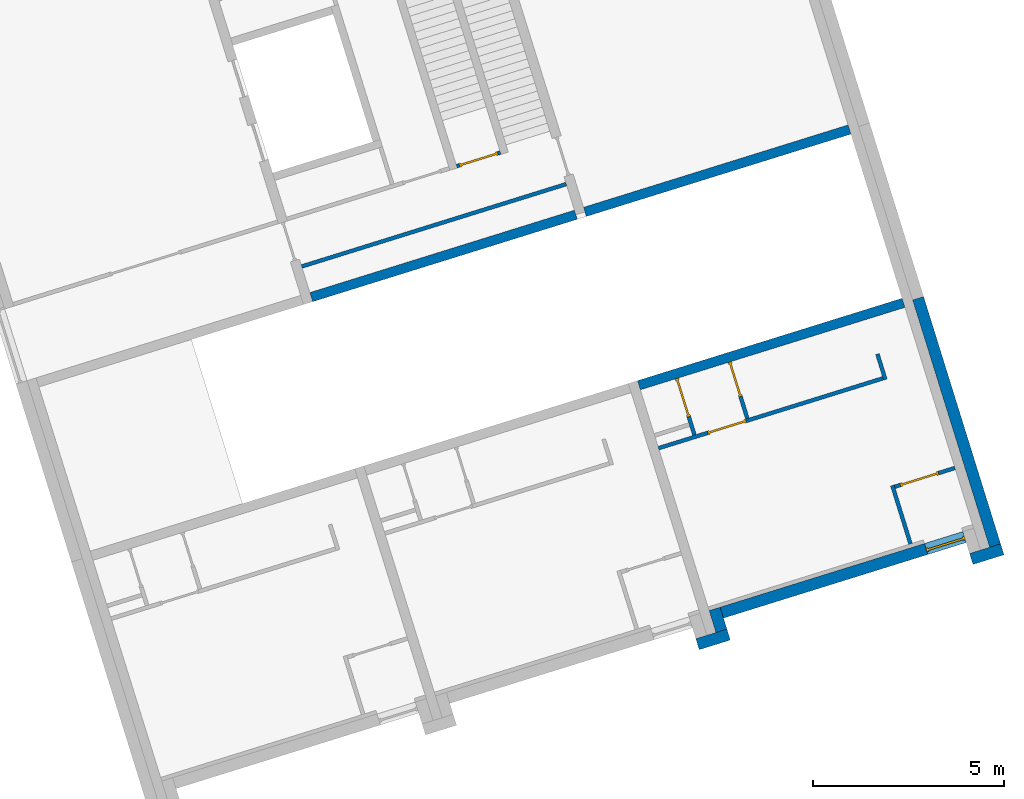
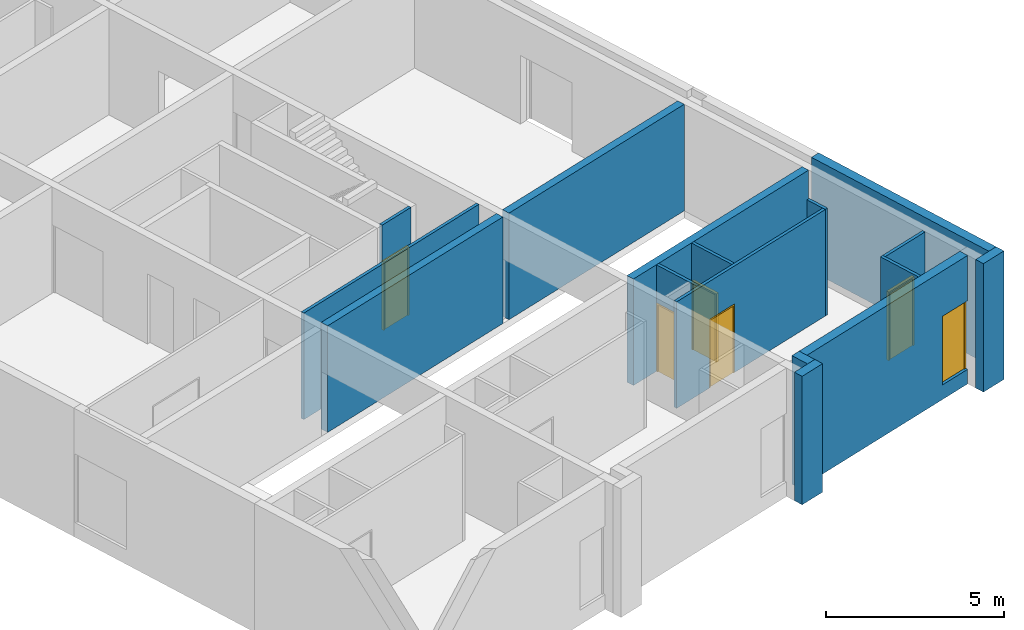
# One storey, part 3 of 10: 16 walls, 6 doors, 8 openings.
"""IFC4 building model written with IfcOpenShell, lengths in metres."""

from ifc_helpers import new_model, entity, si_unit, converted_unit, direction, frame, origin, place, context, subcontext, project, spatial, indexed_curve, outline, extrude, polygons, source, transform, mapped, material, constituent, constituent_set, type_object, type_shapes, element, fill, save


model = new_model("IFC4")

# Units and contexts
model_context = context("Model", 3, precision=1e-05, world=origin(), true_north=direction((6.12323399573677e-17, 1.0)))
body_context = subcontext(model_context, "Body", "Model", "MODEL_VIEW")
ifc_project = project(units=[si_unit("LENGTHUNIT", "METRE"), si_unit("AREAUNIT", "SQUARE_METRE"), si_unit("VOLUMEUNIT", "CUBIC_METRE"), converted_unit("PLANEANGLEUNIT", "DEGREE", entity("IfcPlaneAngleMeasure", 0.0174532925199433), si_unit("PLANEANGLEUNIT", "RADIAN"), dimensions=[0, 0, 0, 0, 0, 0, 0])], contexts=[model_context])

# Site, building, storey
site_placement = place(None, frame((13.1347999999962, 11.9886000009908, 0.0), z_axis=(0.0, 0.0, 1.0), x_axis=(0.954770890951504, 0.297342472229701, 0.0)))
site = spatial("IfcSite", under=ifc_project, at=site_placement, Name="Schiehaven", CompositionType="ELEMENT")
building_placement = place(site_placement, origin())
building = spatial("IfcBuilding", under=site, at=building_placement, Name="VORM huis", CompositionType="ELEMENT")
storey_placement = place(building_placement, origin())
storey = spatial("IfcBuildingStorey", under=building, at=storey_placement, Name="00 begane grond", CompositionType="ELEMENT", Elevation=0.0)

# Walls
ifc_material_1 = material(Name="beton_gewapend_ihw", Category="Miscellaneous")
wall_type_1 = type_object("IfcWallType", Name="Basic Wall:28_WA_skelet_wand 250mm_gen", PredefinedType="STANDARD")
wall_1_placement = place(storey_placement, frame((19.875, 11.9, 0.0), z_axis=(0.0, 0.0, 1.0), x_axis=(-1.0, 0.0, 0.0)))
element("IfcWall", 1, at=wall_1_placement, inside=storey, type_object=wall_type_1, material=ifc_material_1, Name="Constructieve wand", ObjectType="Wand", PredefinedType="NOTDEFINED", context=body_context, shape_type="SweptSolid", body=[
    extrude(outline(indexed_curve([(7.24999999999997, 0.125), (-8.26393618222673e-17, 0.125), (8.26393618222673e-17, -0.125), (7.24999999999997, -0.124999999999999), (7.24999999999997, 0.125)], self_intersect=False)), origin(), (0.0, 0.0, 1.0), 3.65),
])
ifc_material_2 = material(Name="ntb_ntb_ntb", Category="Miscellaneous")
wall_type_2 = type_object("IfcWallType", Name="Basic Wall: 300mm_gen", PredefinedType="STANDARD")
wall_2_placement = place(storey_placement, frame((27.7750000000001, 7.15000000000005, 0.0), z_axis=(0.0, 0.0, 1.0), x_axis=(0.0, -1.0, 0.0)))
element("IfcWall", 2, at=wall_2_placement, inside=storey, type_object=wall_type_2, material=ifc_material_2, Name="Gevelwand", ObjectType="Wand", PredefinedType="NOTDEFINED", context=body_context, shape_type="SweptSolid", body=[
    extrude(outline(indexed_curve([(6.77500000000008, 0.15), (-2.81467268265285e-16, 0.150000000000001), (2.81467268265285e-16, -0.150000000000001), (6.77500000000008, -0.150000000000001), (6.77500000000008, 0.15)], self_intersect=False)), origin(), (0.0, 0.0, 1.0), 3.9),
])
wall_3_placement = place(storey_placement, frame((20.4250000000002, 0.224999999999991, -0.5), z_axis=(0.0, 0.0, 1.0), x_axis=(-1.0, 0.0, 0.0)))
element("IfcWall", 3, at=wall_3_placement, inside=storey, type_object=wall_type_2, material=ifc_material_2, Name="Gevelwand", ObjectType="Wand", PredefinedType="NOTDEFINED", context=body_context, shape_type="SweptSolid", body=[
    extrude(outline(indexed_curve([(0.850000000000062, 0.15), (-3.08086889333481e-16, 0.15), (3.08086889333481e-16, -0.15), (0.850000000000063, -0.15), (0.850000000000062, 0.15)], self_intersect=False)), origin(), (0.0, 0.0, 1.0), 4.4),
])
wall_4_placement = place(storey_placement, frame((20.2750000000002, 0.974999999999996, -0.5), z_axis=(0.0, 0.0, 1.0), x_axis=(0.0, -1.0, 0.0)))
element("IfcWall", 4, at=wall_4_placement, inside=storey, type_object=wall_type_2, material=ifc_material_2, Name="Gevelwand", ObjectType="Wand", PredefinedType="NOTDEFINED", context=body_context, shape_type="SweptSolid", body=[
    extrude(outline(indexed_curve([(0.600000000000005, 0.150000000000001), (0.0, 0.150000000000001), (0.0, -0.150000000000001), (0.600000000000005, -0.150000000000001), (0.600000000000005, 0.150000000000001)], self_intersect=False)), origin(), (0.0, 0.0, 1.0), 4.4),
])

# Wall, opening, door
wall_5_placement = place(storey_placement, frame((27.0750000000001, 0.824999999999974, -0.5), z_axis=(0.0, 0.0, 1.0), x_axis=(-1.0, 0.0, 0.0)))
wall_5 = element("IfcWall", 5, at=wall_5_placement, inside=storey, type_object=wall_type_2, material=ifc_material_2, Name="Gevelwand", ObjectType="Wand", PredefinedType="NOTDEFINED", context=body_context, shape_type="Tessellation", body=[
    polygons([(-1.23674201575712e-15, -0.15, 0.0), (6.64999999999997, -0.15, 0.0), (6.64999999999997, -0.15, 4.4), (-1.23674201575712e-15, -0.15, 4.4), (-1.23674201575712e-15, -0.15, 2.84999999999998), (1.05, -0.15, 2.84999999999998), (1.05, -0.15, 0.5), (-1.23674201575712e-15, -0.15, 0.5), (6.64999999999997, 0.15, 0.0), (-2.18896555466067e-15, 0.15, 0.0), (-2.18896555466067e-15, 0.15, 0.5), (1.05, 0.15, 0.5), (1.05, 0.15, 2.84999999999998), (-2.18896555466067e-15, 0.15, 2.84999999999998), (-2.18896555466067e-15, 0.15, 4.4), (6.64999999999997, 0.15, 4.4)], [[[1, 2, 3, 4, 5, 6, 7, 8]], [[9, 10, 11, 12, 13, 14, 15, 16]], [[2, 1, 10, 9]], [[4, 3, 16, 15]], [[10, 1, 8, 11]], [[3, 2, 9, 16]], [[6, 13, 12, 7]], [[7, 12, 11, 8]], [[13, 6, 5, 14]], [[4, 15, 14, 5]]], closed=True),
])
opening_1_placement = place(wall_5_placement, frame((0.0, -0.15, 0.5)))
opening_1 = element("IfcOpeningElement", 6, at=opening_1_placement, cuts=wall_5, Name="Woningtoegangsdeur", PredefinedType="OPENING", context=body_context, shape_type="SweptSolid", body=[
    extrude(outline(indexed_curve([(2.34999999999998, 1.05), (0.0, 1.05), (0.0, 0.0), (2.34999999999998, 0.0), (2.34999999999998, 1.05)], self_intersect=False)), frame((0.0, 0.0, 0.0), z_axis=(0.0, 1.0, 0.0), x_axis=(0.0, 0.0, 1.0)), (0.0, 0.0, 1.0), 0.3),
])
ifc_material_3 = material(Name="PD_a_buitenwandopeningen", Category="Miscellaneous")
ifc_constituent_1 = constituent(ifc_material_3, Name="PD_a_buitenwandopeningen", Category="Miscellaneous")
ifc_material_4 = material(Name="metaal_aluminium_ntb", Category="Miscellaneous")
ifc_constituent_2 = constituent(ifc_material_4, Name="metaal_aluminium_ntb", Category="Miscellaneous")
ifc_constituent_set_1 = constituent_set(constituents=[ifc_constituent_1, ifc_constituent_2])
door_type_1 = type_object("IfcDoorType", Name="31_DO_buitendeur enkel:woningtoegangsdeur", OperationType="REVOLVING", PredefinedType="DOOR")
shared_shape_1 = source(origin(), body_context, "Body", "SweptSolid", [
    extrude(outline(indexed_curve([(-1.16249999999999, -0.525000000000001), (1.18749999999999, -0.525), (1.18749999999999, 0.525000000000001), (-1.16249999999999, 0.525), (-1.16249999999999, 0.475), (1.13749999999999, 0.475), (1.13749999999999, -0.475), (-1.16249999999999, -0.475), (-1.16249999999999, -0.525000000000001)], self_intersect=False)), frame((0.525000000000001, 0.130000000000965, 1.16249999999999), z_axis=(0.0, 1.0, 0.0), x_axis=(0.0, 0.0, 1.0)), (0.0, 0.0, 1.0), 0.1),
    extrude(outline(indexed_curve([(-0.025, -0.475), (0.025, -0.475), (0.025, 0.475), (-0.025, 0.475), (-0.025, -0.475)], self_intersect=False)), frame((0.525000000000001, 0.180000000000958, 0.0), z_axis=(0.0, 0.0, 1.0), x_axis=(0.0, 1.0, 0.0)), (0.0, 0.0, 1.0), 2.29999999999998),
])
type_shapes(door_type_1, [shared_shape_1])
door_1_placement = place(opening_1_placement, origin())
door_1 = element("IfcDoor", 7, at=door_1_placement, inside=storey, type_object=door_type_1, material=ifc_constituent_set_1, Name="Woningtoegangsdeur", ObjectType="Deur", OperationType="REVOLVING", OverallHeight=2.34999999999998, OverallWidth=1.05, PredefinedType="DOOR", context=body_context, shape_type="MappedRepresentation", body=[
    mapped(shared_shape_1, transform((0.0, 0.0, 0.0), scale=1.0)),
])
fill(opening_1, door_1)

# Walls
wall_6_placement = place(storey_placement, frame((27.9250000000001, 0.224999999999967, -0.5), z_axis=(0.0, 0.0, 1.0), x_axis=(-1.0, 0.0, 0.0)))
element("IfcWall", 8, at=wall_6_placement, inside=storey, type_object=wall_type_2, material=ifc_material_2, Name="Gevelwand", ObjectType="Wand", PredefinedType="NOTDEFINED", context=body_context, shape_type="SweptSolid", body=[
    extrude(outline(indexed_curve([(0.849999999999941, 0.15), (-3.08086889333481e-16, 0.15), (3.08086889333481e-16, -0.15), (0.849999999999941, -0.15), (0.849999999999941, 0.15)], self_intersect=False)), origin(), (0.0, 0.0, 1.0), 4.4),
])
wall_type_3 = type_object("IfcWallType", Name="Basic Wall:22_WA_afbouw_binnenwand 250mm_gen", PredefinedType="STANDARD")
wall_7_placement = place(storey_placement, frame((20.125, 11.9, 0.0)))
element("IfcWall", 9, at=wall_7_placement, inside=storey, type_object=wall_type_3, material=ifc_material_2, Name="Binnenwand", ObjectType="Wand", PredefinedType="NOTDEFINED", context=body_context, shape_type="SweptSolid", body=[
    extrude(outline(indexed_curve([(7.24999999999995, 0.125), (-1.92055213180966e-16, 0.125), (1.92055213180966e-16, -0.125), (7.24999999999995, -0.124999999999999), (7.24999999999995, 0.125)], self_intersect=False)), origin(), (0.0, 0.0, 1.0), 3.65),
])
wall_8_placement = place(storey_placement, frame((20.125, 7.15000000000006, 0.0)))
element("IfcWall", 10, at=wall_8_placement, inside=storey, type_object=wall_type_3, material=ifc_material_2, Name="Binnenwand", ObjectType="Wand", PredefinedType="NOTDEFINED", context=body_context, shape_type="SweptSolid", body=[
    extrude(outline(indexed_curve([(7.24999999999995, 0.124999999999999), (-1.92055213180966e-16, 0.125), (1.92055213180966e-16, -0.125), (7.24999999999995, -0.125000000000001), (7.24999999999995, 0.124999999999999)], self_intersect=False)), origin(), (0.0, 0.0, 1.0), 3.65),
])

# Wall, openings, door
wall_type_4 = type_object("IfcWallType", Name="Basic Wall:22_WA_afbouw_binnenwand 100mm_gen", PredefinedType="STANDARD")
wall_9_placement = place(storey_placement, frame((18.4750000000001, 14.04, 0.0), z_axis=(0.0, 0.0, 1.0), x_axis=(-1.0, 0.0, 0.0)))
wall_9 = element("IfcWall", 11, at=wall_9_placement, inside=storey, type_object=wall_type_4, material=ifc_material_2, Name="Binnenwand", ObjectType="Wand", PredefinedType="NOTDEFINED", context=body_context, shape_type="Tessellation", body=[
    polygons([(1.25501523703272e-15, -0.0499999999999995, 0.0), (0.0750000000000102, -0.0499999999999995, 0.0), (0.0750000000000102, -0.0499999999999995, 2.34999999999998), (1.12500000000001, -0.0499999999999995, 2.34999999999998), (1.12500000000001, -0.0499999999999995, 0.0), (1.2, -0.0499999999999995, 0.0), (1.2, -0.0499999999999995, 3.65), (1.25501523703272e-15, -0.0499999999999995, 3.65), (0.0750000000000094, 0.0499999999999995, 2.34999999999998), (0.0750000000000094, 0.0499999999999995, 0.0), (4.77572169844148e-16, 0.0499999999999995, 0.0), (4.77572169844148e-16, 0.0499999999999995, 3.65), (1.2, 0.0499999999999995, 3.65), (1.2, 0.0499999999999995, 0.0), (1.12500000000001, 0.0499999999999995, 0.0), (1.12500000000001, 0.0499999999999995, 2.34999999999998)], [[[1, 2, 3, 4, 5, 6, 7, 8]], [[9, 10, 11, 12, 13, 14, 15, 16]], [[11, 10, 2, 1]], [[7, 6, 14, 13]], [[8, 7, 13, 12]], [[1, 8, 12, 11]], [[5, 4, 16, 15]], [[3, 2, 10, 9]], [[4, 3, 9, 16]], [[15, 14, 6, 5]]], closed=True),
])
opening_2_placement = place(wall_9_placement, frame((0.0750000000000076, -0.05, 0.0)))
opening_2 = element("IfcOpeningElement", 12, at=opening_2_placement, cuts=wall_9, Name="Vluchtdeur", PredefinedType="OPENING", context=body_context, shape_type="SweptSolid", body=[
    extrude(outline(indexed_curve([(2.34999999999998, 1.05), (0.0, 1.05), (0.0, 1.35358391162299e-15), (2.34999999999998, 1.35358391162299e-15), (2.34999999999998, 1.05)], self_intersect=False)), frame((0.0, 0.0, 0.0), z_axis=(0.0, 1.0, 0.0), x_axis=(0.0, 0.0, 1.0)), (0.0, 0.0, 1.0), 0.1),
])
opening_3_placement = place(wall_9_placement, frame((18.4750000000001, 14.04, 0.0), z_axis=(0.0, 0.0, 1.0), x_axis=(-1.0, 0.0, 0.0)))
element("IfcOpeningElement", 13, at=opening_3_placement, cuts=wall_9, Name="Vluchtdeur", PredefinedType="OPENING", context=body_context, shape_type="SweptSolid", body=[
    extrude(outline(indexed_curve([(-1.17499999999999, -0.525000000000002), (1.17499999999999, -0.525), (1.17499999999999, 0.525), (-1.17499999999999, 0.525), (-1.17499999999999, -0.525000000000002)], self_intersect=False)), frame((17.8750000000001, 15.614, 1.17499999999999), z_axis=(0.0, -1.0, 0.0), x_axis=(0.0, 0.0, -1.0)), (0.0, 0.0, 1.0), 3.048),
])
ifc_material_5 = material(Name="PD_a_binnenwandopeningen", Category="Miscellaneous")
ifc_constituent_3 = constituent(ifc_material_5, Name="PD_a_binnenwandopeningen", Category="Miscellaneous")
ifc_constituent_4 = constituent(ifc_material_4, Name="metaal_aluminium_ntb", Category="Miscellaneous")
ifc_constituent_set_2 = constituent_set(constituents=[ifc_constituent_3, ifc_constituent_4])
door_type_2 = type_object("IfcDoorType", Name="32_DO_binnendeur enkel:binnendeur zelfsluitend 30min", OperationType="NOTDEFINED", PredefinedType="DOOR")
shared_shape_2 = source(origin(), body_context, "Body", "SweptSolid", [
    extrude(outline(indexed_curve([(-1.16249999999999, -0.525000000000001), (1.18749999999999, -0.525), (1.18749999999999, 0.525), (-1.16249999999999, 0.525), (-1.16249999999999, 0.475), (1.13749999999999, 0.475), (1.13749999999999, -0.475), (-1.16249999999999, -0.475), (-1.16249999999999, -0.525000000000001)], self_intersect=False)), frame((0.525000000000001, 0.0, 1.16249999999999), z_axis=(0.0, 1.0, 0.0), x_axis=(0.0, 0.0, 1.0)), (0.0, 0.0, 1.0), 0.1),
    extrude(outline(indexed_curve([(-0.025, -0.475), (0.025, -0.475), (0.025, 0.475), (-0.025, 0.475), (-0.025, -0.475)], self_intersect=False)), frame((0.525000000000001, 0.0499999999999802, 0.0), z_axis=(0.0, 0.0, 1.0), x_axis=(0.0, 1.0, 0.0)), (0.0, 0.0, 1.0), 2.29999999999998),
])
type_shapes(door_type_2, [shared_shape_2])
door_2_placement = place(opening_2_placement, origin())
door_2 = element("IfcDoor", 14, at=door_2_placement, inside=storey, type_object=door_type_2, material=ifc_constituent_set_2, Name="Vluchtdeur", ObjectType="Deur", OperationType="NOTDEFINED", OverallHeight=2.34999999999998, OverallWidth=1.05, PredefinedType="DOOR", context=body_context, shape_type="MappedRepresentation", body=[
    mapped(shared_shape_2, transform((0.0, 0.0, 0.0), scale=1.0)),
])
fill(opening_2, door_2)

# Wall
wall_10_placement = place(storey_placement, frame((19.875, 12.74, 0.0), z_axis=(0.0, 0.0, 1.0), x_axis=(-1.0, 0.0, 0.0)))
element("IfcWall", 15, at=wall_10_placement, inside=storey, type_object=wall_type_4, material=ifc_material_2, Name="Binnenwand", ObjectType="Wand", PredefinedType="NOTDEFINED", context=body_context, shape_type="SweptSolid", body=[
    extrude(outline(indexed_curve([(7.24999999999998, 0.0499999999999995), (-3.88338556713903e-16, 0.0499999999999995), (3.88338556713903e-16, -0.0499999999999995), (7.24999999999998, -0.0499999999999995), (7.24999999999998, 0.0499999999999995)], self_intersect=False)), origin(), (0.0, 0.0, 1.0), 3.65),
])

# Wall, opening, door
wall_11_placement = place(storey_placement, frame((22.575, 5.47500000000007, 0.0), z_axis=(0.0, 0.0, 1.0), x_axis=(0.0, 1.0, 0.0)))
wall_11 = element("IfcWall", 16, at=wall_11_placement, inside=storey, type_object=wall_type_4, material=ifc_material_2, Name="Binnenwand", ObjectType="Wand", PredefinedType="NOTDEFINED", context=body_context, shape_type="Tessellation", body=[
    polygons([(1.55, -0.0499999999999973, 3.65), (0.0, -0.0499999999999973, 3.65), (0.0, -0.0499999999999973, 0.0), (0.599999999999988, -0.0499999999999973, 0.0), (0.599999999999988, -0.0499999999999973, 2.34999999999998), (1.55, -0.0499999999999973, 2.34999999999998), (0.0, 0.0500000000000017, 3.65), (1.55, 0.0500000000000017, 3.65), (1.55, 0.0500000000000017, 2.34999999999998), (0.599999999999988, 0.0500000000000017, 2.34999999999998), (0.599999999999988, 0.0500000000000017, 0.0), (0.0, 0.0500000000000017, 0.0), (0.0, 0.0500000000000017, 2.34999999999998)], [[[1, 2, 3, 4, 5, 6]], [[7, 8, 9, 10, 11, 12, 13]], [[3, 12, 11, 4]], [[8, 1, 6, 9]], [[2, 1, 8, 7]], [[10, 5, 4, 11]], [[5, 10, 9, 6]], [[3, 2, 7, 13, 12]]], closed=True),
])
opening_4_placement = place(wall_11_placement, frame((0.599999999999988, -0.050000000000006, 0.0)))
opening_4 = element("IfcOpeningElement", 17, at=opening_4_placement, cuts=wall_11, Name="Binnendeur", PredefinedType="OPENING", context=body_context, shape_type="SweptSolid", body=[
    extrude(outline(indexed_curve([(2.34999999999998, 0.950000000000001), (0.0, 0.950000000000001), (0.0, 2.70716782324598e-16), (2.34999999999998, 2.70716782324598e-16), (2.34999999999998, 0.950000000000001)], self_intersect=False)), frame((0.0, 0.0, 0.0), z_axis=(0.0, 1.0, 0.0), x_axis=(0.0, 0.0, 1.0)), (0.0, 0.0, 1.0), 0.1),
])
ifc_constituent_5 = constituent(ifc_material_5, Name="PD_a_binnenwandopeningen", Category="Miscellaneous")
ifc_constituent_6 = constituent(ifc_material_4, Name="metaal_aluminium_ntb", Category="Miscellaneous")
ifc_constituent_set_3 = constituent_set(constituents=[ifc_constituent_5, ifc_constituent_6])
door_type_3 = type_object("IfcDoorType", Name="32_DO_binnendeur enkel:kastdeur", OperationType="REVOLVING", PredefinedType="DOOR")
shared_shape_3 = source(origin(), body_context, "Body", "SweptSolid", [
    extrude(outline(indexed_curve([(-1.16249999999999, -0.475000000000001), (1.18749999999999, -0.475000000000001), (1.18749999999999, 0.475000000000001), (-1.16249999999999, 0.475000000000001), (-1.16249999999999, 0.425), (1.13749999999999, 0.425), (1.13749999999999, -0.425), (-1.16249999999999, -0.425), (-1.16249999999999, -0.475000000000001)], self_intersect=False)), frame((0.475000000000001, 0.0, 1.16249999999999), z_axis=(0.0, 1.0, 0.0), x_axis=(0.0, 0.0, 1.0)), (0.0, 0.0, 1.0), 0.1),
    extrude(outline(indexed_curve([(-0.0250000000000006, -0.425), (0.0249999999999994, -0.425), (0.0250000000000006, 0.425), (-0.0249999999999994, 0.425), (-0.0250000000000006, -0.425)], self_intersect=False)), frame((0.475000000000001, 0.0499999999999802, 0.0), z_axis=(0.0, 0.0, 1.0), x_axis=(0.0, 1.0, 0.0)), (0.0, 0.0, 1.0), 2.29999999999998),
])
type_shapes(door_type_3, [shared_shape_3])
door_3_placement = place(opening_4_placement, origin())
door_3 = element("IfcDoor", 18, at=door_3_placement, inside=storey, type_object=door_type_3, material=ifc_constituent_set_3, Name="Binnendeur", ObjectType="Deur", OperationType="REVOLVING", OverallHeight=2.34999999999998, OverallWidth=0.950000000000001, PredefinedType="DOOR", context=body_context, shape_type="MappedRepresentation", body=[
    mapped(shared_shape_3, transform((0.0, 0.0, 0.0), scale=1.0)),
])
fill(opening_4, door_3)

# Wall, openings, door
wall_12_placement = place(storey_placement, frame((26.2750000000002, 5.42500000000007, 0.0), z_axis=(0.0, 0.0, 1.0), x_axis=(-1.0, 0.0, 0.0)))
wall_12 = element("IfcWall", 19, at=wall_12_placement, inside=storey, type_object=wall_type_4, material=ifc_material_2, Name="Binnenwand", ObjectType="Wand", PredefinedType="NOTDEFINED", context=body_context, shape_type="Tessellation", body=[
    polygons([(-4.30096586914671e-15, -0.0500000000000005, 0.0), (3.65000000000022, -0.0500000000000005, 0.0), (3.75000000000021, -0.0500000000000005, 0.0), (3.75000000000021, -0.0500000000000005, 2.34999999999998), (4.80000000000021, -0.0500000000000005, 2.34999999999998), (4.80000000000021, -0.0500000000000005, 0.0), (5.10000000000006, -0.0500000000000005, 0.0), (5.20000000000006, -0.0500000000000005, 0.0), (6.15000000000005, -0.0500000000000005, 0.0), (6.15000000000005, -0.0500000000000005, 3.65), (5.20000000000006, -0.0500000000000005, 3.65), (5.10000000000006, -0.0500000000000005, 3.65), (3.75000000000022, -0.0500000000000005, 3.65), (3.65000000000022, -0.0500000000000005, 3.65), (-4.30096586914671e-15, -0.0500000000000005, 3.65), (3.75000000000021, 0.0499999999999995, 2.34999999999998), (3.75000000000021, 0.0499999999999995, 0.0), (-4.30152299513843e-15, 0.0499999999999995, 0.0), (-4.30152299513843e-15, 0.0499999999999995, 3.65), (6.15000000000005, 0.0499999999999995, 3.65), (6.15000000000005, 0.0499999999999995, 0.0), (4.80000000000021, 0.0499999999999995, 0.0), (4.80000000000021, 0.0499999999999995, 2.34999999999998)], [[[1, 2, 3, 4, 5, 6, 7, 8, 9, 10, 11, 12, 13, 14, 15]], [[16, 17, 18, 19, 20, 21, 22, 23]], [[18, 17, 3, 2, 1]], [[10, 9, 21, 20]], [[15, 14, 13, 12, 11, 10, 20, 19]], [[6, 5, 23, 22]], [[4, 3, 17, 16]], [[5, 4, 16, 23]], [[1, 15, 19, 18]], [[22, 21, 9, 8, 7, 6]]], closed=True),
])
opening_5_placement = place(wall_12_placement, frame((3.75000000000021, -0.0499999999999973, 0.0)))
opening_5 = element("IfcOpeningElement", 20, at=opening_5_placement, cuts=wall_12, Name="Binnendeur", PredefinedType="OPENING", context=body_context, shape_type="SweptSolid", body=[
    extrude(outline(indexed_curve([(2.34999999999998, 1.05), (0.0, 1.05), (0.0, 0.0), (2.34999999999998, 0.0), (2.34999999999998, 1.05)], self_intersect=False)), frame((0.0, 0.0, 0.0), z_axis=(0.0, 1.0, 0.0), x_axis=(0.0, 0.0, 1.0)), (0.0, 0.0, 1.0), 0.1),
])
opening_6_placement = place(wall_12_placement, frame((26.2750000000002, 5.42500000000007, 0.0), z_axis=(0.0, 0.0, 1.0), x_axis=(-1.0, 0.0, 0.0)))
element("IfcOpeningElement", 21, at=opening_6_placement, cuts=wall_12, Name="Binnendeur", PredefinedType="OPENING", context=body_context, shape_type="SweptSolid", body=[
    extrude(outline(indexed_curve([(-1.17499999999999, -0.524999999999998), (1.17499999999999, -0.525000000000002), (1.17499999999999, 0.525000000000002), (-1.17499999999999, 0.525000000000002), (-1.17499999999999, -0.524999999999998)], self_intersect=False)), frame((22.0, 6.99900000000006, 1.17499999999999), z_axis=(0.0, -1.0, 0.0), x_axis=(0.0, 0.0, -1.0)), (0.0, 0.0, 1.0), 3.048),
])
ifc_constituent_7 = constituent(ifc_material_5, Name="PD_a_binnenwandopeningen", Category="Miscellaneous")
ifc_constituent_8 = constituent(ifc_material_4, Name="metaal_aluminium_ntb", Category="Miscellaneous")
ifc_constituent_set_4 = constituent_set(constituents=[ifc_constituent_7, ifc_constituent_8])
door_type_4 = type_object("IfcDoorType", Name="32_DO_binnendeur enkel:binnendeur", OperationType="REVOLVING", PredefinedType="DOOR")
shared_shape_4 = source(origin(), body_context, "Body", "SweptSolid", [
    extrude(outline(indexed_curve([(-1.16249999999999, -0.525000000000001), (1.18749999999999, -0.525), (1.18749999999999, 0.525), (-1.16249999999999, 0.525), (-1.16249999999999, 0.475), (1.13749999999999, 0.475), (1.13749999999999, -0.475), (-1.16249999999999, -0.475), (-1.16249999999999, -0.525000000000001)], self_intersect=False)), frame((0.525000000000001, 0.0, 1.16249999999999), z_axis=(0.0, 1.0, 0.0), x_axis=(0.0, 0.0, 1.0)), (0.0, 0.0, 1.0), 0.1),
    extrude(outline(indexed_curve([(-0.025, -0.475), (0.025, -0.475), (0.025, 0.475), (-0.025, 0.475), (-0.025, -0.475)], self_intersect=False)), frame((0.525000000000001, 0.0499999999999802, 0.0), z_axis=(0.0, 0.0, 1.0), x_axis=(0.0, 1.0, 0.0)), (0.0, 0.0, 1.0), 2.29999999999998),
])
type_shapes(door_type_4, [shared_shape_4])
door_4_placement = place(opening_5_placement, origin())
door_4 = element("IfcDoor", 22, at=door_4_placement, inside=storey, type_object=door_type_4, material=ifc_constituent_set_4, Name="Binnendeur", ObjectType="Deur", OperationType="REVOLVING", OverallHeight=2.34999999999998, OverallWidth=1.05, PredefinedType="DOOR", context=body_context, shape_type="MappedRepresentation", body=[
    mapped(shared_shape_4, transform((0.0, 0.0, 0.0), scale=1.0)),
])
fill(opening_5, door_4)

# Wall, opening, door
wall_13_placement = place(storey_placement, frame((21.1250000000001, 7.02500000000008, 0.0), z_axis=(0.0, 0.0, 1.0), x_axis=(0.0, -1.0, 0.0)))
wall_13 = element("IfcWall", 23, at=wall_13_placement, inside=storey, type_object=wall_type_4, material=ifc_material_2, Name="Binnenwand", ObjectType="Wand", PredefinedType="NOTDEFINED", context=body_context, shape_type="Tessellation", body=[
    polygons([(1.55000000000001, -0.0499999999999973, 3.65), (1.3, -0.0499999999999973, 3.65), (1.2, -0.0499999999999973, 3.65), (0.0, -0.0499999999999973, 3.65), (0.0, -0.0499999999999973, 2.34999999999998), (1.05000000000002, -0.0499999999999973, 2.34999999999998), (1.05000000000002, -0.0499999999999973, 0.0), (1.2, -0.0499999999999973, 0.0), (1.3, -0.0499999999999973, 0.0), (1.55000000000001, -0.0499999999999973, 0.0), (0.0, 0.0500000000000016, 3.65), (1.55000000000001, 0.0500000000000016, 3.65), (1.55000000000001, 0.0500000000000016, 0.0), (1.05000000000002, 0.0500000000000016, 0.0), (1.05000000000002, 0.0500000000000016, 2.34999999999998), (0.0, 0.0500000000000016, 2.34999999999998)], [[[1, 2, 3, 4, 5, 6, 7, 8, 9, 10]], [[11, 12, 13, 14, 15, 16]], [[13, 10, 9, 8, 7, 14]], [[4, 3, 2, 1, 12, 11]], [[4, 11, 16, 5]], [[6, 15, 14, 7]], [[15, 6, 5, 16]], [[1, 10, 13, 12]]], closed=True),
])
opening_7_placement = place(wall_13_placement, frame((0.0, -0.0499999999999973, 0.0)))
opening_7 = element("IfcOpeningElement", 24, at=opening_7_placement, cuts=wall_13, Name="Binnendeur", PredefinedType="OPENING", context=body_context, shape_type="SweptSolid", body=[
    extrude(outline(indexed_curve([(2.34999999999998, 1.05), (0.0, 1.05), (0.0, 2.70716782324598e-16), (2.34999999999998, 2.70716782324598e-16), (2.34999999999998, 1.05)], self_intersect=False)), frame((0.0, 0.0, 0.0), z_axis=(0.0, 1.0, 0.0), x_axis=(0.0, 0.0, 1.0)), (0.0, 0.0, 1.0), 0.1),
])
ifc_constituent_9 = constituent(ifc_material_5, Name="PD_a_binnenwandopeningen", Category="Miscellaneous")
ifc_constituent_10 = constituent(ifc_material_4, Name="metaal_aluminium_ntb", Category="Miscellaneous")
ifc_constituent_set_5 = constituent_set(constituents=[ifc_constituent_9, ifc_constituent_10])
door_5_placement = place(opening_7_placement, origin())
door_5 = element("IfcDoor", 25, at=door_5_placement, inside=storey, type_object=door_type_4, material=ifc_constituent_set_5, Name="Binnendeur", ObjectType="Deur", OperationType="REVOLVING", OverallHeight=2.34999999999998, OverallWidth=1.05, PredefinedType="DOOR", context=body_context, shape_type="MappedRepresentation", body=[
    mapped(shared_shape_4, transform((0.0, 0.0, 0.0), scale=1.0)),
])
fill(opening_7, door_5)

# Wall
wall_14_placement = place(storey_placement, frame((26.3250000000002, 6.07500000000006, 0.0), z_axis=(0.0, 0.0, 1.0), x_axis=(0.0, -1.0, 0.0)))
element("IfcWall", 26, at=wall_14_placement, inside=storey, type_object=wall_type_4, material=ifc_material_2, Name="Binnenwand", ObjectType="Wand", PredefinedType="NOTDEFINED", context=body_context, shape_type="SweptSolid", body=[
    extrude(outline(indexed_curve([(0.699999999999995, 0.0499999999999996), (-1.66873505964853e-16, 0.0500000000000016), (1.66873505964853e-16, -0.0500000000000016), (0.699999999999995, -0.0500000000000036), (0.699999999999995, 0.0499999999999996)], self_intersect=False)), origin(), (0.0, 0.0, 1.0), 3.65),
])

# Wall, opening, door
wall_15_placement = place(storey_placement, frame((27.3750000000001, 2.62499999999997, 0.0), z_axis=(0.0, 0.0, 1.0), x_axis=(-1.0, 0.0, 0.0)))
wall_15 = element("IfcWall", 27, at=wall_15_placement, inside=storey, type_object=wall_type_4, material=ifc_material_2, Name="Binnenwand", ObjectType="Wand", PredefinedType="NOTDEFINED", context=body_context, shape_type="Tessellation", body=[
    polygons([(1.49999999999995, -0.0500000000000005, 2.34999999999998), (1.49999999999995, -0.0500000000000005, 0.0), (1.64999999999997, -0.0500000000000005, 0.0), (1.64999999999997, -0.0500000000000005, 3.65), (4.78321588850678e-15, -0.05, 3.65), (4.78321588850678e-15, -0.05, 0.0), (0.449999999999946, -0.05, 0.0), (0.449999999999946, -0.05, 2.34999999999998), (1.64999999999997, 0.05, 0.0), (1.49999999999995, 0.0499999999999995, 0.0), (1.49999999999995, 0.0499999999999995, 2.34999999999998), (0.449999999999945, 0.05, 2.34999999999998), (0.449999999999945, 0.05, 0.0), (4.11863190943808e-15, 0.05, 0.0), (4.11863190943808e-15, 0.05, 3.65), (1.64999999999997, 0.05, 3.65)], [[[1, 2, 3, 4, 5, 6, 7, 8]], [[9, 10, 11, 12, 13, 14, 15, 16]], [[7, 6, 14, 13]], [[5, 4, 16, 15]], [[6, 5, 15, 14]], [[13, 12, 8, 7]], [[11, 10, 2, 1]], [[12, 11, 1, 8]], [[4, 3, 9, 16]], [[3, 2, 10, 9]]], closed=True),
])
opening_8_placement = place(wall_15_placement, frame((0.449999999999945, -0.0499999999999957, 0.0)))
opening_8 = element("IfcOpeningElement", 28, at=opening_8_placement, cuts=wall_15, Name="Binnendeur", PredefinedType="OPENING", context=body_context, shape_type="SweptSolid", body=[
    extrude(outline(indexed_curve([(2.34999999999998, 0.0), (2.34999999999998, 1.05), (0.0, 1.05), (0.0, 0.0), (2.34999999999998, 0.0)], self_intersect=False)), frame((0.0, 0.0, 0.0), z_axis=(0.0, 1.0, 0.0), x_axis=(0.0, 0.0, 1.0)), (0.0, 0.0, 1.0), 0.1),
])
ifc_constituent_11 = constituent(ifc_material_5, Name="PD_a_binnenwandopeningen", Category="Miscellaneous")
ifc_constituent_12 = constituent(ifc_material_4, Name="metaal_aluminium_ntb", Category="Miscellaneous")
ifc_constituent_set_6 = constituent_set(constituents=[ifc_constituent_11, ifc_constituent_12])
shared_shape_5 = source(origin(), body_context, "Body", "SweptSolid", [
    extrude(outline(indexed_curve([(0.475, -1.16249999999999), (0.525, -1.16249999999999), (0.525, 1.18749999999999), (-0.525, 1.18749999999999), (-0.525, -1.16249999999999), (-0.475, -1.16249999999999), (-0.475, 1.13749999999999), (0.475, 1.13749999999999), (0.475, -1.16249999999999)], self_intersect=False)), frame((0.525000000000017, 0.100000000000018, 1.16249999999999), z_axis=(0.0, -1.0, 0.0), x_axis=(1.0, 0.0, 0.0)), (0.0, 0.0, 1.0), 0.1),
    extrude(outline(indexed_curve([(-0.475, -0.025), (0.475, -0.025), (0.475, 0.025), (-0.475, 0.025), (-0.475, -0.025)], self_intersect=False)), frame((0.525000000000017, 0.0499999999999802, 0.0)), (0.0, 0.0, 1.0), 2.29999999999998),
])
door_6_placement = place(opening_8_placement, origin())
door_6 = element("IfcDoor", 29, at=door_6_placement, inside=storey, type_object=door_type_4, material=ifc_constituent_set_6, Name="Binnendeur", ObjectType="Deur", OperationType="REVOLVING", OverallHeight=2.34999999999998, OverallWidth=1.05, PredefinedType="DOOR", context=body_context, shape_type="MappedRepresentation", body=[
    mapped(shared_shape_5, transform((0.0, 0.0, 0.0), scale=1.0)),
])
fill(opening_8, door_6)

# Wall
wall_16_placement = place(storey_placement, frame((25.6750000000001, 2.67499999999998, 0.0), z_axis=(0.0, 0.0, 1.0), x_axis=(0.0, -1.0, 0.0)))
element("IfcWall", 30, at=wall_16_placement, inside=storey, type_object=wall_type_4, material=ifc_material_2, Name="Binnenwand", ObjectType="Wand", PredefinedType="NOTDEFINED", context=body_context, shape_type="SweptSolid", body=[
    extrude(outline(indexed_curve([(1.6, 0.0500000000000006), (-2.37762306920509e-16, 0.0500000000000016), (2.37762306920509e-16, -0.0500000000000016), (1.6, -0.0500000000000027), (1.6, 0.0500000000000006)], self_intersect=False)), origin(), (0.0, 0.0, 1.0), 3.65),
])

save(model, "model.ifc")
